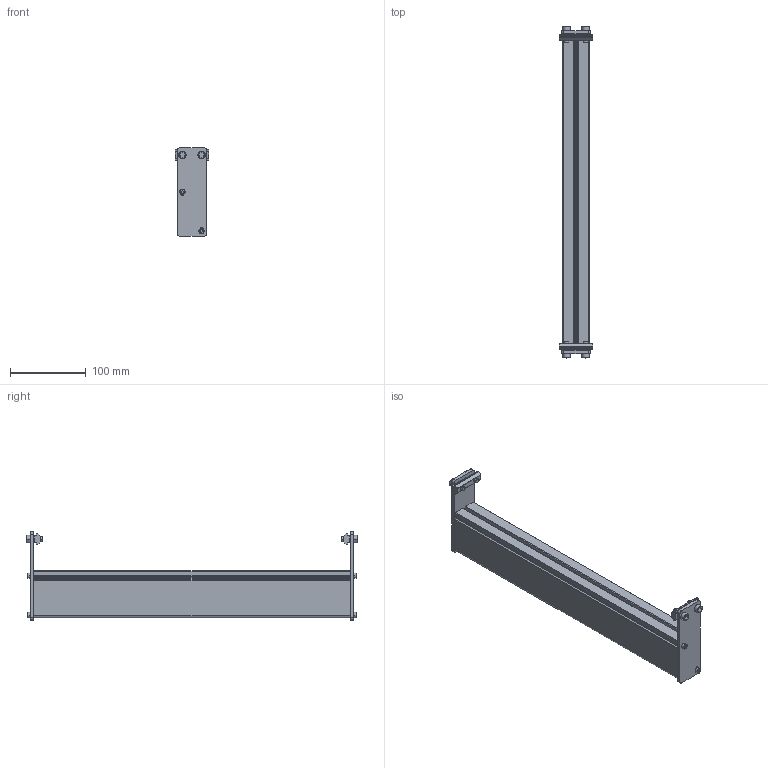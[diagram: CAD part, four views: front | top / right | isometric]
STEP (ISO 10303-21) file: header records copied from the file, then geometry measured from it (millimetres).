
FILE_DESCRIPTION((''),'2;1');
FILE_NAME('350974-16_ASM','2023-03-22T',('jenni.wallner'),(''),'PRO/ENGINEER BY PARAMETRIC TECHNOLOGY CORPORATION, 2012420','PRO/ENGINEER BY PARAMETRIC TECHNOLOGY CORPORATION, 2012420','');
FILE_SCHEMA(('CONFIG_CONTROL_DESIGN'));
Length unit declared in the file: inch
Products named in the file (6): 350979-01646; 350978; 200830M; 920616M; 920416M; 350974-16_ASM
Assembly tree (13 placements, depth 2):
  350974-16_ASM
    350979-01646
    350978  x2
    200830M  x2
    920616M  x4
    920416M  x4
Bounding box: 44.45 x 439.18 x 116.98 mm (x, y, z)
Volume: 380493.7 mm3; surface area: 242274.9 mm2
Topology: 13 solids, 17 shells, 342 faces, 868 edges, 568 vertices
Faces by surface type: plane 168, cylinder 142, cone 32
Entity records: 5992 total; most frequent: DIRECTION 1074, CARTESIAN_POINT 1021, ORIENTED_EDGE 972, EDGE_CURVE 490, AXIS2_PLACEMENT_3D 385, VERTEX_POINT 324, VECTOR 304, LINE 304
